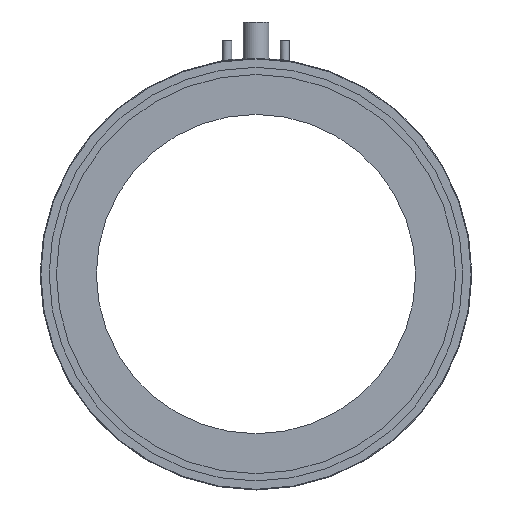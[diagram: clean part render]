
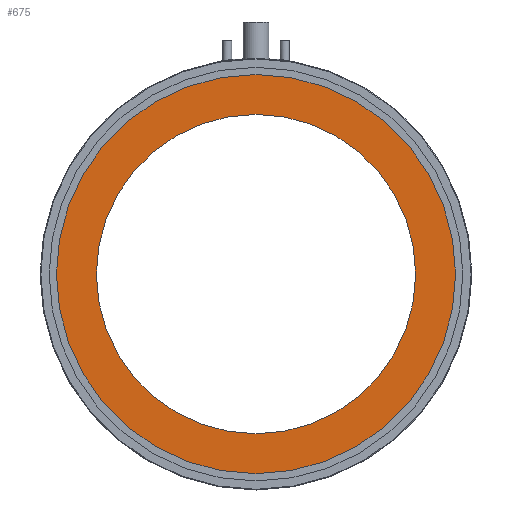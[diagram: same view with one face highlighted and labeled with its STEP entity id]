
A CAD part, front view. The second image highlights one B-rep face of the part: STEP entity #675.
In plain terms, the highlighted planar face has unit normal (0, -1, 0).
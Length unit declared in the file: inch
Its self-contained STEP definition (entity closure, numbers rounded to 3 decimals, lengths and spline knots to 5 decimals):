
#7 = VERTEX_POINT ( 'NONE', #297 ) ;
#68 = AXIS2_PLACEMENT_3D ( 'NONE', #526, #540, #510 ) ;
#88 = AXIS2_PLACEMENT_3D ( 'NONE', #240, #249, #246 ) ;
#112 = AXIS2_PLACEMENT_3D ( 'NONE', #171, #175, #178 ) ;
#132 = AXIS2_PLACEMENT_3D ( 'NONE', #566, #567, #568 ) ;
#142 = AXIS2_PLACEMENT_3D ( 'NONE', #163, #147, #148 ) ;
#147 = DIRECTION ( 'NONE',  ( 0., 1., 0. ) ) ;
#148 = DIRECTION ( 'NONE',  ( 0., 0., 1. ) ) ;
#163 = CARTESIAN_POINT ( 'NONE',  ( 0., 0., 0. ) ) ;
#171 = CARTESIAN_POINT ( 'NONE',  ( 0., 0., 0. ) ) ;
#175 = DIRECTION ( 'NONE',  ( 0., 1., 0. ) ) ;
#178 = DIRECTION ( 'NONE',  ( 0., 0., 1. ) ) ;
#233 = CARTESIAN_POINT ( 'NONE',  ( 0., 0., -1.1 ) ) ;
#240 = CARTESIAN_POINT ( 'NONE',  ( 0., 0., 0. ) ) ;
#242 = CARTESIAN_POINT ( 'NONE',  ( 0., 0., 1.1 ) ) ;
#246 = DIRECTION ( 'NONE',  ( 0., 0., 1. ) ) ;
#249 = DIRECTION ( 'NONE',  ( 0., 1., 0. ) ) ;
#250 = CARTESIAN_POINT ( 'NONE',  ( 0., 0., 1.375 ) ) ;
#297 = CARTESIAN_POINT ( 'NONE',  ( 0., 0., -1.375 ) ) ;
#510 = DIRECTION ( 'NONE',  ( 0., 0., 1. ) ) ;
#526 = CARTESIAN_POINT ( 'NONE',  ( 0., 0., 0. ) ) ;
#540 = DIRECTION ( 'NONE',  ( 0., 1., 0. ) ) ;
#565 = PLANE ( 'NONE',  #132 ) ;
#566 = CARTESIAN_POINT ( 'NONE',  ( 0., 0., 0. ) ) ;
#567 = DIRECTION ( 'NONE',  ( 0., 1., 0. ) ) ;
#568 = DIRECTION ( 'NONE',  ( 0., 0., 1. ) ) ;
#664 = EDGE_CURVE ( 'NONE', #1120, #7, #812, .T. ) ;
#675 = ADVANCED_FACE ( 'NONE', ( #807, #810 ), #565, .F. ) ;
#741 = CIRCLE ( 'NONE', #142, 1.1 ) ;
#751 = CIRCLE ( 'NONE', #112, 1.1 ) ;
#782 = CIRCLE ( 'NONE', #88, 1.375 ) ;
#807 = FACE_BOUND ( 'NONE', #1075, .T. ) ;
#810 = FACE_OUTER_BOUND ( 'NONE', #1078, .T. ) ;
#812 = CIRCLE ( 'NONE', #68, 1.375 ) ;
#850 = EDGE_CURVE ( 'NONE', #1126, #1125, #751, .T. ) ;
#852 = EDGE_CURVE ( 'NONE', #1125, #1126, #741, .T. ) ;
#873 = EDGE_CURVE ( 'NONE', #7, #1120, #782, .T. ) ;
#913 = ORIENTED_EDGE ( 'NONE', *, *, #664, .F. ) ;
#916 = ORIENTED_EDGE ( 'NONE', *, *, #852, .T. ) ;
#922 = ORIENTED_EDGE ( 'NONE', *, *, #873, .F. ) ;
#958 = ORIENTED_EDGE ( 'NONE', *, *, #850, .T. ) ;
#1075 = EDGE_LOOP ( 'NONE', ( #916, #958 ) ) ;
#1078 = EDGE_LOOP ( 'NONE', ( #913, #922 ) ) ;
#1120 = VERTEX_POINT ( 'NONE', #250 ) ;
#1125 = VERTEX_POINT ( 'NONE', #242 ) ;
#1126 = VERTEX_POINT ( 'NONE', #233 ) ;
